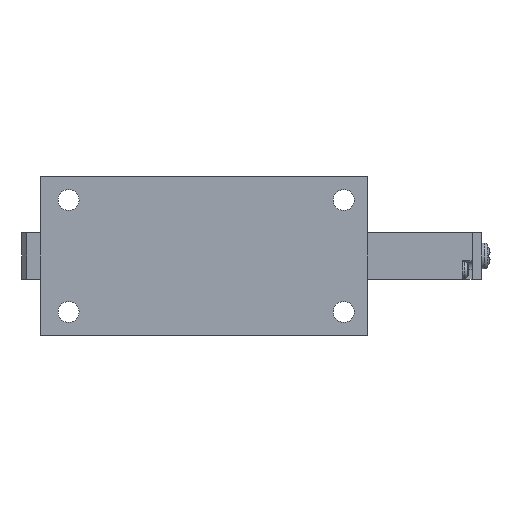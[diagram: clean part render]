
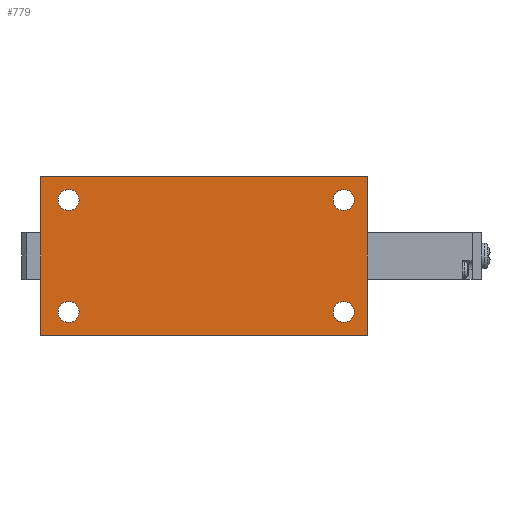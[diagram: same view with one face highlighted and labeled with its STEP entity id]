
A CAD part, front view. The second image highlights one B-rep face of the part: STEP entity #779.
In plain terms, the highlighted planar face has unit normal (0, -1, 0).
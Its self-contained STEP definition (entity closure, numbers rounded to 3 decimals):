
#779=ADVANCED_FACE('',(#1674,#1675,#1676,#1677,#1678),#1679,.F.);
#1674=FACE_OUTER_BOUND('',#2588,.T.);
#1675=FACE_BOUND('',#2589,.T.);
#1676=FACE_BOUND('',#2590,.T.);
#1677=FACE_BOUND('',#2591,.T.);
#1678=FACE_BOUND('',#2592,.T.);
#1679=PLANE('',#2593);
#2588=EDGE_LOOP('',(#5786,#5787,#5788,#5789));
#2589=EDGE_LOOP('',(#5790));
#2590=EDGE_LOOP('',(#5791));
#2591=EDGE_LOOP('',(#5792));
#2592=EDGE_LOOP('',(#5793));
#2593=AXIS2_PLACEMENT_3D('',#5794,#5795,#5796);
#5786=ORIENTED_EDGE('',*,*,#6841,.T.);
#5787=ORIENTED_EDGE('',*,*,#6830,.F.);
#5788=ORIENTED_EDGE('',*,*,#6839,.F.);
#5789=ORIENTED_EDGE('',*,*,#6842,.T.);
#5790=ORIENTED_EDGE('',*,*,#6843,.F.);
#5791=ORIENTED_EDGE('',*,*,#6833,.F.);
#5792=ORIENTED_EDGE('',*,*,#6844,.F.);
#5793=ORIENTED_EDGE('',*,*,#6845,.F.);
#5794=CARTESIAN_POINT('',(0.0,0.0,17.0));
#5795=DIRECTION('',(-0.0,1.0,0.0));
#5796=DIRECTION('',(1.0,0.0,0.0));
#6830=EDGE_CURVE('',#8518,#8516,#8520,.T.);
#6833=EDGE_CURVE('',#8525,#8525,#8526,.T.);
#6839=EDGE_CURVE('',#8535,#8518,#8537,.T.);
#6841=EDGE_CURVE('',#8540,#8516,#8541,.T.);
#6842=EDGE_CURVE('',#8535,#8540,#8542,.T.);
#6843=EDGE_CURVE('',#8543,#8543,#8544,.T.);
#6844=EDGE_CURVE('',#8545,#8545,#8546,.T.);
#6845=EDGE_CURVE('',#8547,#8547,#8548,.T.);
#8516=VERTEX_POINT('',#11296);
#8518=VERTEX_POINT('',#11299);
#8520=LINE('',#11302,#11303);
#8525=VERTEX_POINT('',#11308);
#8526=CIRCLE('',#11309,2.25);
#8535=VERTEX_POINT('',#11318);
#8537=LINE('',#11321,#11322);
#8540=VERTEX_POINT('',#11325);
#8541=LINE('',#11326,#11327);
#8542=LINE('',#11328,#11329);
#8543=VERTEX_POINT('',#11330);
#8544=CIRCLE('',#11331,2.25);
#8545=VERTEX_POINT('',#11332);
#8546=CIRCLE('',#11333,2.25);
#8547=VERTEX_POINT('',#11334);
#8548=CIRCLE('',#11335,2.25);
#11296=CARTESIAN_POINT('',(70.0,0.0,-17.0));
#11299=CARTESIAN_POINT('',(70.0,0.0,17.0));
#11302=CARTESIAN_POINT('',(70.0,0.0,17.0));
#11303=VECTOR('',#12680,1.0);
#11308=CARTESIAN_POINT('',(65.0,0.0,-9.75));
#11309=AXIS2_PLACEMENT_3D('',#12687,#12688,#12689);
#11318=CARTESIAN_POINT('',(0.0,0.0,17.0));
#11321=CARTESIAN_POINT('',(0.0,0.0,17.0));
#11322=VECTOR('',#12703,1.0);
#11325=CARTESIAN_POINT('',(0.0,0.0,-17.0));
#11326=CARTESIAN_POINT('',(0.0,0.0,-17.0));
#11327=VECTOR('',#12707,1.0);
#11328=CARTESIAN_POINT('',(0.0,0.0,17.0));
#11329=VECTOR('',#12708,1.0);
#11330=CARTESIAN_POINT('',(6.0,0.0,14.25));
#11331=AXIS2_PLACEMENT_3D('',#12709,#12710,#12711);
#11332=CARTESIAN_POINT('',(6.0,0.0,-9.75));
#11333=AXIS2_PLACEMENT_3D('',#12712,#12713,#12714);
#11334=CARTESIAN_POINT('',(65.0,0.0,14.25));
#11335=AXIS2_PLACEMENT_3D('',#12715,#12716,#12717);
#12680=DIRECTION('',(0.0,0.0,-1.0));
#12687=CARTESIAN_POINT('',(65.0,0.0,-12.0));
#12688=DIRECTION('',(0.0,-1.0,0.0));
#12689=DIRECTION('',(0.0,0.0,1.0));
#12703=DIRECTION('',(1.0,0.0,0.0));
#12707=DIRECTION('',(1.0,0.0,0.0));
#12708=DIRECTION('',(0.0,0.0,-1.0));
#12709=CARTESIAN_POINT('',(6.0,0.0,12.0));
#12710=DIRECTION('',(0.0,-1.0,0.0));
#12711=DIRECTION('',(0.0,0.0,1.0));
#12712=CARTESIAN_POINT('',(6.0,0.0,-12.0));
#12713=DIRECTION('',(0.0,-1.0,0.0));
#12714=DIRECTION('',(0.0,0.0,1.0));
#12715=CARTESIAN_POINT('',(65.0,0.0,12.0));
#12716=DIRECTION('',(0.0,-1.0,0.0));
#12717=DIRECTION('',(0.0,0.0,1.0));
